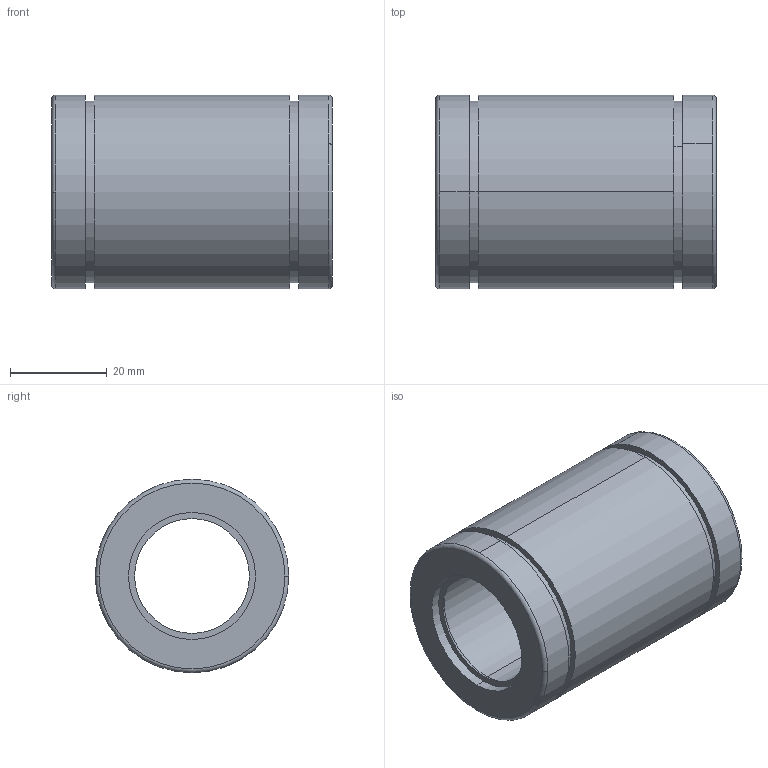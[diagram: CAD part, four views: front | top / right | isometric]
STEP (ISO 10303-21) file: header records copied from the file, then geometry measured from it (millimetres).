
FILE_DESCRIPTION (( 'STEP AP214' ), '1' );
FILE_NAME ('2.7024 Lineaarilaakeri LME25UU.STEP', '2024-06-17T10:24:25', ( '' ), ( '' ), 'SwSTEP 2.0', 'SolidWorks 2024', '' );
FILE_SCHEMA (( 'AUTOMOTIVE_DESIGN' ));
Length unit declared in the file: millimetre
Products named in the file (1): 2.7024 Lineaarilaakeri LME25UU
Bounding box: 58 x 40 x 40 mm (x, y, z)
Volume: 43665.4 mm3; surface area: 15554.4 mm2
Topology: 1 solids, 1 shells, 46 faces, 96 edges, 64 vertices
Faces by surface type: cylinder 24, plane 14, torus 4, cone 4
Entity records: 1295 total; most frequent: DIRECTION 258, CARTESIAN_POINT 207, ORIENTED_EDGE 192, AXIS2_PLACEMENT_3D 115, EDGE_CURVE 96, CIRCLE 68, VERTEX_POINT 64, EDGE_LOOP 60
